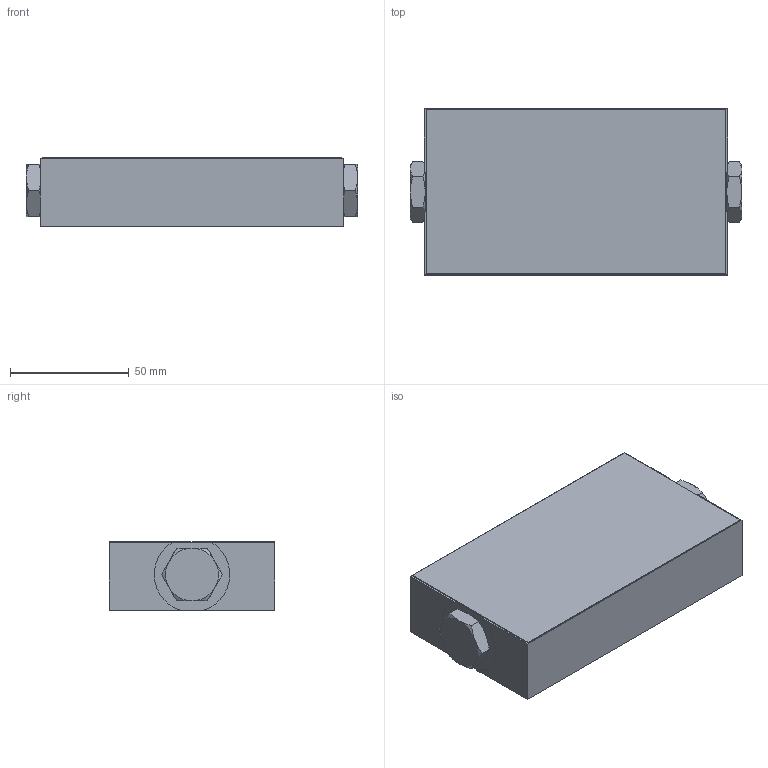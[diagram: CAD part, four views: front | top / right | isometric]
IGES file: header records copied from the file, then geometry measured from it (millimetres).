
Start section:  PTC IGES file: 562514-en-h.igs
Global section: file name: 562514-en-h.igs; native system: Creo Parametric by PTC Inc.; preprocessor: 2019030; author: qusrh3; organization: Unknown; date: 20191231.211834; units: inch
Bounding box: 139.41 x 69.85 x 28.96 mm (x, y, z)
Surface area: 39851.8 mm2 (no closed solid volume)
Topology: 0 solids, 0 shells, 57 faces, 248 edges, 248 vertices
Faces by surface type: bspline 29, revolution 28
